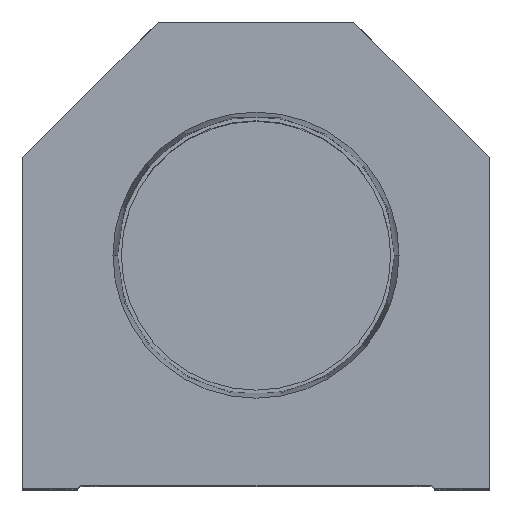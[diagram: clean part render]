
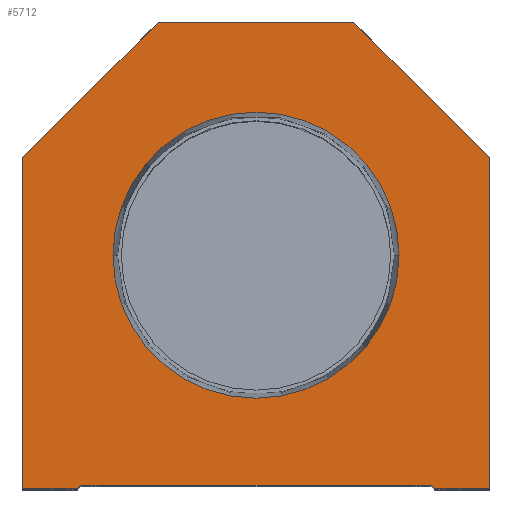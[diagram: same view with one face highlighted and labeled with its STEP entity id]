
A CAD part, top view. The second image highlights one B-rep face of the part: STEP entity #5712.
In plain terms, the highlighted planar face has unit normal (0, 0, 1).
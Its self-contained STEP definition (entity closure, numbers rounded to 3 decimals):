
#2 = VERTEX_POINT ( 'NONE', #9692 ) ;
#561 = VECTOR ( 'NONE', #885, 1000. ) ;
#725 = CARTESIAN_POINT ( 'NONE',  ( 0., 38.1, 0. ) ) ;
#876 = VECTOR ( 'NONE', #11286, 1000. ) ;
#885 = DIRECTION ( 'NONE',  ( -1., 0., 0. ) ) ;
#903 = DIRECTION ( 'NONE',  ( 0.707, 0.707, 0. ) ) ;
#930 = VERTEX_POINT ( 'NONE', #10612 ) ;
#1555 = LINE ( 'NONE', #4430, #9618 ) ;
#1741 = CARTESIAN_POINT ( 'NONE',  ( 0., 0., 0. ) ) ;
#1836 = PLANE ( 'NONE',  #15069 ) ;
#1920 = CARTESIAN_POINT ( 'NONE',  ( -23.374, 38.1, 0. ) ) ;
#1933 = EDGE_CURVE ( 'NONE', #9694, #10943, #8673, .T. ) ;
#2306 = VECTOR ( 'NONE', #14868, 1000. ) ;
#2529 = CARTESIAN_POINT ( 'NONE',  ( 0., 38.1, 0. ) ) ;
#2552 = ORIENTED_EDGE ( 'NONE', *, *, #13901, .T. ) ;
#2590 = EDGE_CURVE ( 'NONE', #19939, #11372, #15994, .T. ) ;
#3193 = CARTESIAN_POINT ( 'NONE',  ( -38.1, 54.1, 0. ) ) ;
#3219 = LINE ( 'NONE', #18737, #14240 ) ;
#3754 = ORIENTED_EDGE ( 'NONE', *, *, #19362, .T. ) ;
#3815 = CARTESIAN_POINT ( 'NONE',  ( -29.1, 0., 0. ) ) ;
#3926 = CARTESIAN_POINT ( 'NONE',  ( 28.6, 0., 0. ) ) ;
#3992 = VERTEX_POINT ( 'NONE', #17876 ) ;
#4164 = CARTESIAN_POINT ( 'NONE',  ( -14.55, 14.55, 0. ) ) ;
#4417 = ORIENTED_EDGE ( 'NONE', *, *, #7573, .F. ) ;
#4430 = CARTESIAN_POINT ( 'NONE',  ( 38.1, 0., 0. ) ) ;
#4761 = DIRECTION ( 'NONE',  ( 1., 0., 0. ) ) ;
#4964 = CARTESIAN_POINT ( 'NONE',  ( -28.6, 0.5, 0. ) ) ;
#5305 = VERTEX_POINT ( 'NONE', #10414 ) ;
#5322 = LINE ( 'NONE', #11558, #16066 ) ;
#5512 = CARTESIAN_POINT ( 'NONE',  ( -28.6, 0., 0. ) ) ;
#5712 = ADVANCED_FACE ( 'NONE', ( #15725, #9451 ), #1836, .T. ) ;
#6097 = DIRECTION ( 'NONE',  ( 0., 1., 0. ) ) ;
#6227 = ORIENTED_EDGE ( 'NONE', *, *, #9502, .T. ) ;
#6250 = ORIENTED_EDGE ( 'NONE', *, *, #16536, .T. ) ;
#6849 = LINE ( 'NONE', #5512, #10355 ) ;
#6968 = EDGE_LOOP ( 'NONE', ( #3754, #2552, #18441, #6998, #15745, #6227, #6250, #16045, #16624, #18964 ) ) ;
#6998 = ORIENTED_EDGE ( 'NONE', *, *, #10393, .T. ) ;
#7020 = DIRECTION ( 'NONE',  ( -0.707, 0.707, 0. ) ) ;
#7573 = EDGE_CURVE ( 'NONE', #11372, #19939, #10340, .T. ) ;
#7666 = CARTESIAN_POINT ( 'NONE',  ( -16., 76.2, 0. ) ) ;
#7802 = VECTOR ( 'NONE', #903, 1000. ) ;
#8388 = DIRECTION ( 'NONE',  ( 1., 0., 0. ) ) ;
#8398 = AXIS2_PLACEMENT_3D ( 'NONE', #725, #19600, #17844 ) ;
#8673 = LINE ( 'NONE', #3926, #2306 ) ;
#9451 = FACE_OUTER_BOUND ( 'NONE', #6968, .T. ) ;
#9502 = EDGE_CURVE ( 'NONE', #10943, #11332, #1555, .T. ) ;
#9618 = VECTOR ( 'NONE', #6097, 1000. ) ;
#9692 = CARTESIAN_POINT ( 'NONE',  ( -38.1, 0., 0. ) ) ;
#9694 = VERTEX_POINT ( 'NONE', #10174 ) ;
#9793 = CARTESIAN_POINT ( 'NONE',  ( 38.1, 0., 0. ) ) ;
#10174 = CARTESIAN_POINT ( 'NONE',  ( 29.1, 0., 0. ) ) ;
#10340 = CIRCLE ( 'NONE', #8398, 23.374 ) ;
#10355 = VECTOR ( 'NONE', #8388, 1000. ) ;
#10393 = EDGE_CURVE ( 'NONE', #930, #9694, #5322, .T. ) ;
#10414 = CARTESIAN_POINT ( 'NONE',  ( 16., 76.2, 0. ) ) ;
#10612 = CARTESIAN_POINT ( 'NONE',  ( 28.6, 0.5, 0. ) ) ;
#10943 = VERTEX_POINT ( 'NONE', #9793 ) ;
#10954 = EDGE_CURVE ( 'NONE', #3992, #930, #14268, .T. ) ;
#11286 = DIRECTION ( 'NONE',  ( -0.707, -0.707, 0. ) ) ;
#11332 = VERTEX_POINT ( 'NONE', #17234 ) ;
#11372 = VERTEX_POINT ( 'NONE', #17337 ) ;
#11410 = VECTOR ( 'NONE', #7020, 1000. ) ;
#11504 = VERTEX_POINT ( 'NONE', #7666 ) ;
#11558 = CARTESIAN_POINT ( 'NONE',  ( 14.55, 14.55, 0. ) ) ;
#11697 = LINE ( 'NONE', #13906, #11410 ) ;
#12689 = EDGE_CURVE ( 'NONE', #14403, #2, #3219, .T. ) ;
#12896 = DIRECTION ( 'NONE',  ( 1., 0., 0. ) ) ;
#13367 = CARTESIAN_POINT ( 'NONE',  ( 16., 76.2, 0. ) ) ;
#13901 = EDGE_CURVE ( 'NONE', #17175, #3992, #14814, .T. ) ;
#13906 = CARTESIAN_POINT ( 'NONE',  ( 38.1, 54.1, 0. ) ) ;
#14240 = VECTOR ( 'NONE', #19024, 1000. ) ;
#14268 = LINE ( 'NONE', #4964, #14833 ) ;
#14352 = LINE ( 'NONE', #3193, #876 ) ;
#14403 = VERTEX_POINT ( 'NONE', #20018 ) ;
#14814 = LINE ( 'NONE', #4164, #7802 ) ;
#14833 = VECTOR ( 'NONE', #15865, 1000. ) ;
#14868 = DIRECTION ( 'NONE',  ( 1., 0., 0. ) ) ;
#14928 = EDGE_CURVE ( 'NONE', #5305, #11504, #16397, .T. ) ;
#15000 = ORIENTED_EDGE ( 'NONE', *, *, #2590, .F. ) ;
#15069 = AXIS2_PLACEMENT_3D ( 'NONE', #1741, #18682, #12896 ) ;
#15725 = FACE_BOUND ( 'NONE', #17078, .T. ) ;
#15745 = ORIENTED_EDGE ( 'NONE', *, *, #1933, .T. ) ;
#15865 = DIRECTION ( 'NONE',  ( 1., 0., 0. ) ) ;
#15994 = CIRCLE ( 'NONE', #19568, 23.374 ) ;
#16045 = ORIENTED_EDGE ( 'NONE', *, *, #14928, .T. ) ;
#16066 = VECTOR ( 'NONE', #19367, 1000. ) ;
#16397 = LINE ( 'NONE', #13367, #561 ) ;
#16536 = EDGE_CURVE ( 'NONE', #11332, #5305, #11697, .T. ) ;
#16624 = ORIENTED_EDGE ( 'NONE', *, *, #18882, .T. ) ;
#17078 = EDGE_LOOP ( 'NONE', ( #4417, #15000 ) ) ;
#17175 = VERTEX_POINT ( 'NONE', #3815 ) ;
#17234 = CARTESIAN_POINT ( 'NONE',  ( 38.1, 54.1, 0. ) ) ;
#17337 = CARTESIAN_POINT ( 'NONE',  ( 23.374, 38.1, 0. ) ) ;
#17844 = DIRECTION ( 'NONE',  ( 1., 0., 0. ) ) ;
#17876 = CARTESIAN_POINT ( 'NONE',  ( -28.6, 0.5, 0. ) ) ;
#18044 = DIRECTION ( 'NONE',  ( 0., 0., 1. ) ) ;
#18441 = ORIENTED_EDGE ( 'NONE', *, *, #10954, .T. ) ;
#18682 = DIRECTION ( 'NONE',  ( 0., 0., 1. ) ) ;
#18737 = CARTESIAN_POINT ( 'NONE',  ( -38.1, 0., 0. ) ) ;
#18882 = EDGE_CURVE ( 'NONE', #11504, #14403, #14352, .T. ) ;
#18964 = ORIENTED_EDGE ( 'NONE', *, *, #12689, .T. ) ;
#19024 = DIRECTION ( 'NONE',  ( 0., -1., 0. ) ) ;
#19362 = EDGE_CURVE ( 'NONE', #2, #17175, #6849, .T. ) ;
#19367 = DIRECTION ( 'NONE',  ( 0.707, -0.707, 0. ) ) ;
#19568 = AXIS2_PLACEMENT_3D ( 'NONE', #2529, #18044, #4761 ) ;
#19600 = DIRECTION ( 'NONE',  ( 0., 0., 1. ) ) ;
#19939 = VERTEX_POINT ( 'NONE', #1920 ) ;
#20018 = CARTESIAN_POINT ( 'NONE',  ( -38.1, 54.1, 0. ) ) ;
